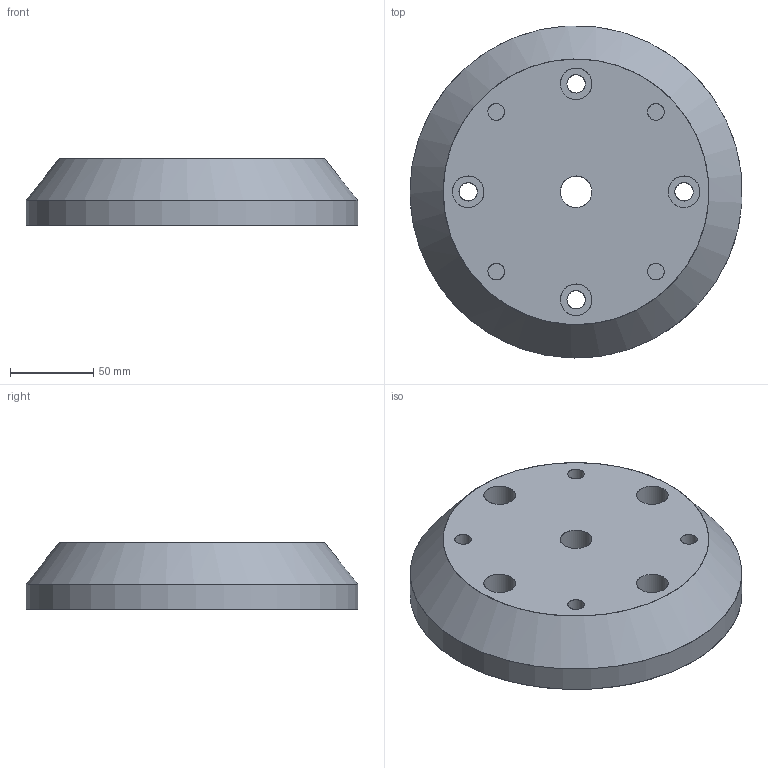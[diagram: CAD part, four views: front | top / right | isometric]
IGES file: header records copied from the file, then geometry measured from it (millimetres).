
Start section: Iges File created by ES
Global section: native system: ES; preprocessor: IGES.4B00; organization: JingDiao; units: millimetre
Bounding box: 199.87 x 199.87 x 40 mm (x, y, z)
Surface area: 90294.6 mm2 (no closed solid volume)
Topology: 0 solids, 0 shells, 25 faces, 365 edges, 350 vertices
Faces by surface type: bspline 25
